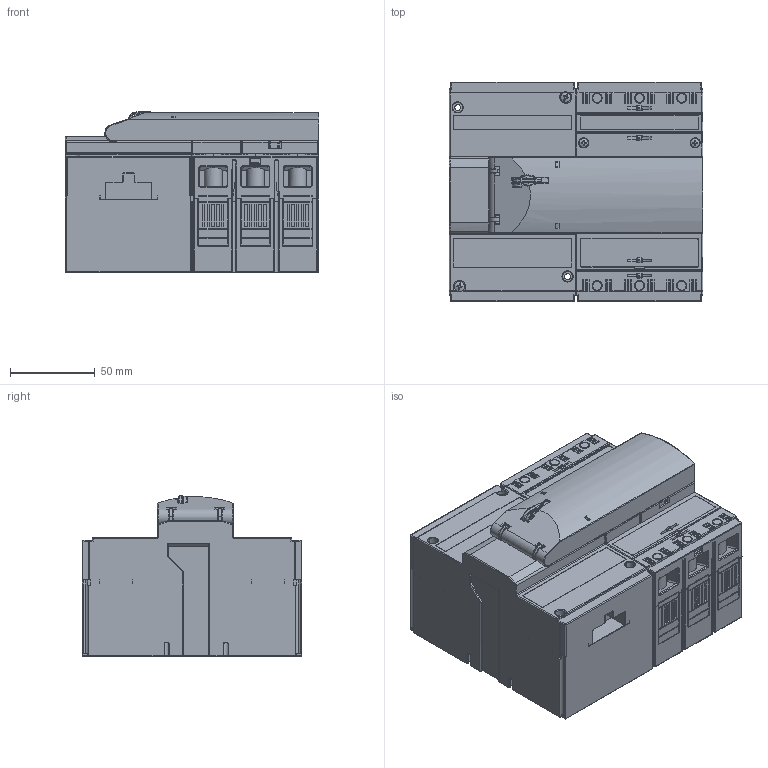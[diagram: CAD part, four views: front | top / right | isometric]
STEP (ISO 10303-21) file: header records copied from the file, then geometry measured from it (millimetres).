
FILE_DESCRIPTION (( 'STEP AP214' ), '1' );
FILE_NAME ('BC160NT305__MP-BC_fin.step', '2013-05-22T12:36:19', ( '' ), ( '' ), 'SwSTEP 2.0', 'SolidWorks 2011', '' );
FILE_SCHEMA (( 'AUTOMOTIVE_DESIGN' ));
Length unit declared in the file: millimetre
Products named in the file (1): BC160NT305__MP-BC_fin
Bounding box: 150 x 130 x 94.7 mm (x, y, z)
Volume: 1401735.2 mm3; surface area: 184481.5 mm2
Topology: 9 solids, 19 shells, 5212 faces, 14181 edges, 9003 vertices
Faces by surface type: plane 2883, cylinder 1746, bspline 363, torus 131, cone 48, sphere 41
Entity records: 242982 total; most frequent: CARTESIAN_POINT 58940, ORIENTED_EDGE 28214, DIRECTION 23799, EDGE_CURVE 14107, VECTOR 9389, LINE 9389, VERTEX_POINT 8999, AXIS2_PLACEMENT_3D 7205
